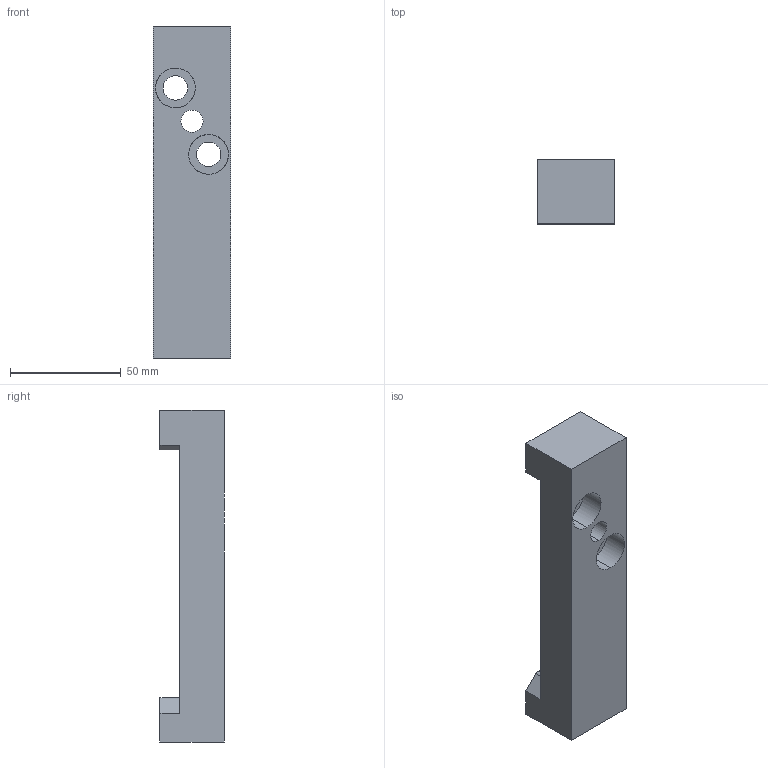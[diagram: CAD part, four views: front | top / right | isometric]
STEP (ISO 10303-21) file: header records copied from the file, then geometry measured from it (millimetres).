
FILE_DESCRIPTION(('CATIA V5 STEP Exchange'),'2;1');
FILE_NAME('C:\Users\Utente\Desktop\IO LAVORO\3D X SITO CF\X 3D SITO CF 27-09-2020\785\785-035.stp','2020-10-27T19:36:56+00:00',('none'),('none'),'CATIA Version 5 Release 20 GA (IN-10)','CATIA V5 STEP AP203','none');
FILE_SCHEMA(('CONFIG_CONTROL_DESIGN'));
Length unit declared in the file: millimetre
Products named in the file (1): 785-035
Bounding box: 35 x 29 x 150 mm (x, y, z)
Volume: 107611.7 mm3; surface area: 21704.8 mm2
Topology: 1 solids, 1 shells, 28 faces, 72 edges, 48 vertices
Faces by surface type: plane 16, cylinder 12
Entity records: 974 total; most frequent: CARTESIAN_POINT 241, ORIENTED_EDGE 144, DIRECTION 124, EDGE_CURVE 72, AXIS2_PLACEMENT_3D 49, VECTOR 48, LINE 48, VERTEX_POINT 48
